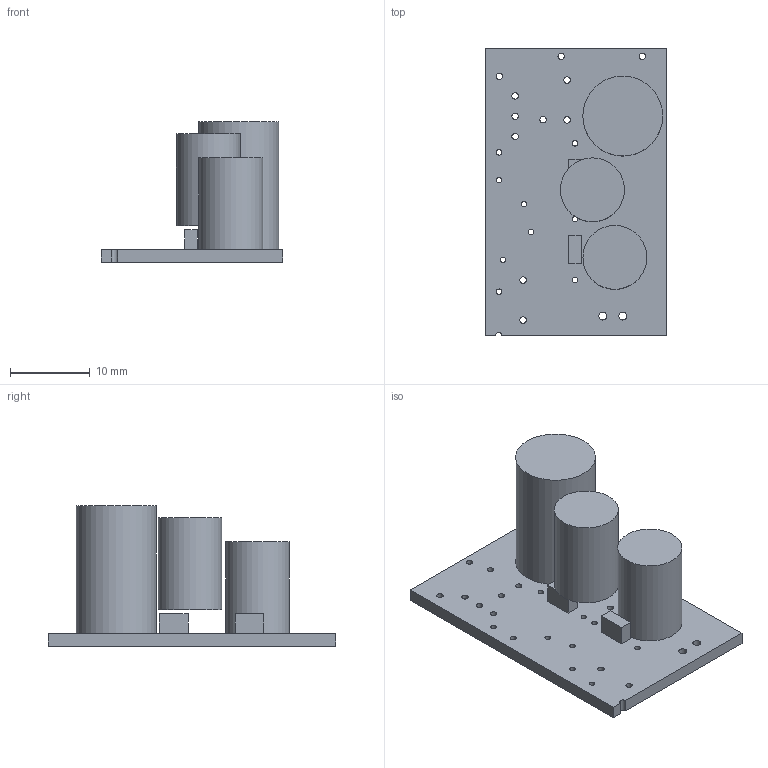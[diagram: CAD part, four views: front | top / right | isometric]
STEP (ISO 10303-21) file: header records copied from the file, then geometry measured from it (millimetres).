
FILE_DESCRIPTION(('Open CASCADE Model'),'2;1');
FILE_NAME('Open CASCADE Shape Model','2026-11-13T21:04:36',('Author'),( 'Open CASCADE'),'Open CASCADE STEP processor 7.8','Open CASCADE 7.8' ,'Unknown');
FILE_SCHEMA(('AUTOMOTIVE_DESIGN { 1 0 10303 214 1 1 1 1 }'));
Length unit declared in the file: millimetre
Products named in the file (7): C42_SolidWorks_context_mm; PCB_crop_top_Z0_thickness_1p6; C41_body_height_11.5mm; C43_body_height_16mm; R75_body_height_2.5mm; R77_body_height_2.5mm; C42_UKL_47u_50V_body_bottom_Z3
Assembly tree (6 placements, depth 2):
  C42_SolidWorks_context_mm
    PCB_crop_top_Z0_thickness_1p6
    C41_body_height_11.5mm
    C43_body_height_16mm
    R75_body_height_2.5mm
    R77_body_height_2.5mm
    C42_UKL_47u_50V_body_bottom_Z3
Bounding box: 22.77 x 36 x 17.6 mm (x, y, z)
Volume: 3729.2 mm3; surface area: 3427.9 mm2
Topology: 6 solids, 6 shells, 58 faces, 138 edges, 92 vertices
Faces by surface type: cylinder 33, plane 25
Full cylindrical faces by diameter (mm): 0.7 x10, 0.8 x15, 1 x4, 8 x2, 10 x1
Entity records: 3950 total; most frequent: CARTESIAN_POINT 929, DIRECTION 547, LINE 278, VECTOR 278, ORIENTED_EDGE 276, PCURVE 276, DEFINITIONAL_REPRESENTATION 276, EDGE_CURVE 138
